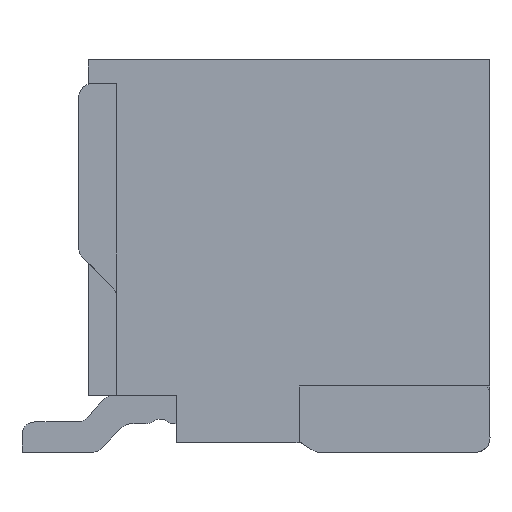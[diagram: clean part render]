
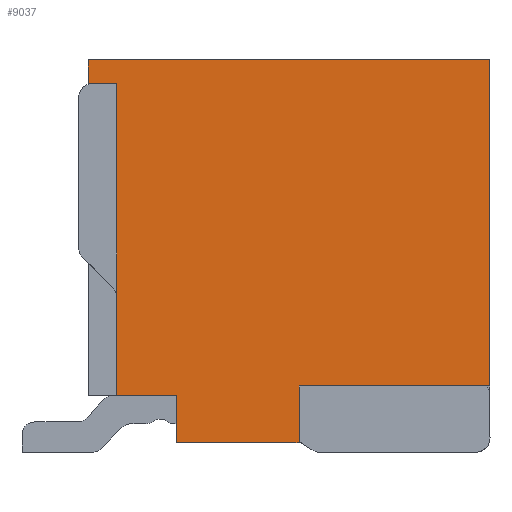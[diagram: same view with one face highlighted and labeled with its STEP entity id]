
A CAD part, left-side view. The second image highlights one B-rep face of the part: STEP entity #9037.
In plain terms, the highlighted planar face has unit normal (-1, 0, 0).
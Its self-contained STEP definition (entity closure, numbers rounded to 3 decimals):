
#2 = VERTEX_POINT ( 'NONE', #19882 ) ;
#270 = PLANE ( 'NONE',  #29100 ) ;
#937 = VERTEX_POINT ( 'NONE', #39215 ) ;
#1014 = CARTESIAN_POINT ( 'NONE',  ( -6.625, -0.93, 0. ) ) ;
#1038 = VECTOR ( 'NONE', #20604, 1000. ) ;
#3580 = VECTOR ( 'NONE', #34931, 1000. ) ;
#5173 = VERTEX_POINT ( 'NONE', #25448 ) ;
#5262 = VECTOR ( 'NONE', #39754, 1000. ) ;
#6288 = LINE ( 'NONE', #32538, #1038 ) ;
#6550 = VECTOR ( 'NONE', #22724, 1000. ) ;
#6664 = DIRECTION ( 'NONE',  ( -1., 0., 0. ) ) ;
#7848 = CARTESIAN_POINT ( 'NONE',  ( -6.625, -4.25, 0.6 ) ) ;
#8169 = DIRECTION ( 'NONE',  ( 0., -1., 0. ) ) ;
#8190 = CARTESIAN_POINT ( 'NONE',  ( -6.625, -2.23, 0. ) ) ;
#8833 = ORIENTED_EDGE ( 'NONE', *, *, #9646, .F. ) ;
#9037 = ADVANCED_FACE ( 'NONE', ( #39125 ), #270, .T. ) ;
#9646 = EDGE_CURVE ( 'NONE', #2, #937, #25922, .T. ) ;
#10036 = CARTESIAN_POINT ( 'NONE',  ( -6.625, -0.93, 0. ) ) ;
#11567 = EDGE_CURVE ( 'NONE', #43341, #43935, #6288, .T. ) ;
#11660 = LINE ( 'NONE', #44674, #42282 ) ;
#11780 = LINE ( 'NONE', #43391, #44091 ) ;
#11907 = DIRECTION ( 'NONE',  ( 0., 0., -1. ) ) ;
#12408 = CARTESIAN_POINT ( 'NONE',  ( -6.625, -2.23, 0. ) ) ;
#12755 = EDGE_CURVE ( 'NONE', #43341, #32099, #38716, .T. ) ;
#13608 = VECTOR ( 'NONE', #8169, 1000. ) ;
#13842 = VERTEX_POINT ( 'NONE', #26308 ) ;
#14217 = ORIENTED_EDGE ( 'NONE', *, *, #19040, .T. ) ;
#15057 = ORIENTED_EDGE ( 'NONE', *, *, #20996, .T. ) ;
#15106 = DIRECTION ( 'NONE',  ( 0., -1., 0. ) ) ;
#16071 = LINE ( 'NONE', #44816, #44003 ) ;
#17941 = CARTESIAN_POINT ( 'NONE',  ( -6.625, 0., 0. ) ) ;
#19040 = EDGE_CURVE ( 'NONE', #5173, #937, #28193, .T. ) ;
#19882 = CARTESIAN_POINT ( 'NONE',  ( -6.625, -0.93, 0. ) ) ;
#20155 = LINE ( 'NONE', #10036, #34868 ) ;
#20604 = DIRECTION ( 'NONE',  ( 0., 0., 1. ) ) ;
#20996 = EDGE_CURVE ( 'NONE', #13842, #5173, #11660, .T. ) ;
#21074 = DIRECTION ( 'NONE',  ( 0., -1., 0. ) ) ;
#21430 = DIRECTION ( 'NONE',  ( 0., 0., 1. ) ) ;
#21687 = EDGE_LOOP ( 'NONE', ( #26960, #41788, #29968, #30434, #42546, #15057, #14217, #8833, #36932, #28199 ) ) ;
#21994 = LINE ( 'NONE', #40415, #13608 ) ;
#22724 = DIRECTION ( 'NONE',  ( 0., 0., 1. ) ) ;
#25441 = VERTEX_POINT ( 'NONE', #32149 ) ;
#25448 = CARTESIAN_POINT ( 'NONE',  ( -6.625, -0.3, 0.5 ) ) ;
#25922 = LINE ( 'NONE', #1014, #29873 ) ;
#26308 = CARTESIAN_POINT ( 'NONE',  ( -6.625, -0.3, 3.8 ) ) ;
#26960 = ORIENTED_EDGE ( 'NONE', *, *, #12755, .F. ) ;
#28193 = LINE ( 'NONE', #42622, #5262 ) ;
#28199 = ORIENTED_EDGE ( 'NONE', *, *, #37586, .T. ) ;
#29100 = AXIS2_PLACEMENT_3D ( 'NONE', #17941, #6664, #21430 ) ;
#29762 = EDGE_CURVE ( 'NONE', #25441, #43935, #21994, .T. ) ;
#29873 = VECTOR ( 'NONE', #44123, 1000. ) ;
#29968 = ORIENTED_EDGE ( 'NONE', *, *, #29762, .F. ) ;
#30434 = ORIENTED_EDGE ( 'NONE', *, *, #36320, .F. ) ;
#32099 = VERTEX_POINT ( 'NONE', #45339 ) ;
#32149 = CARTESIAN_POINT ( 'NONE',  ( -6.625, 0., 4.05 ) ) ;
#32538 = CARTESIAN_POINT ( 'NONE',  ( -6.625, -4.25, 0.6 ) ) ;
#33940 = CARTESIAN_POINT ( 'NONE',  ( -6.625, 0., 3.8 ) ) ;
#34868 = VECTOR ( 'NONE', #21074, 1000. ) ;
#34931 = DIRECTION ( 'NONE',  ( 0., 1., 0. ) ) ;
#36320 = EDGE_CURVE ( 'NONE', #39039, #25441, #16071, .T. ) ;
#36932 = ORIENTED_EDGE ( 'NONE', *, *, #38456, .T. ) ;
#37586 = EDGE_CURVE ( 'NONE', #40272, #32099, #40437, .T. ) ;
#38456 = EDGE_CURVE ( 'NONE', #2, #40272, #20155, .T. ) ;
#38716 = LINE ( 'NONE', #39179, #3580 ) ;
#39039 = VERTEX_POINT ( 'NONE', #33940 ) ;
#39125 = FACE_OUTER_BOUND ( 'NONE', #21687, .T. ) ;
#39179 = CARTESIAN_POINT ( 'NONE',  ( -6.625, -4.25, 0.6 ) ) ;
#39215 = CARTESIAN_POINT ( 'NONE',  ( -6.625, -0.93, 0.5 ) ) ;
#39754 = DIRECTION ( 'NONE',  ( 0., -1., 0. ) ) ;
#40272 = VERTEX_POINT ( 'NONE', #12408 ) ;
#40415 = CARTESIAN_POINT ( 'NONE',  ( -6.625, 0., 4.05 ) ) ;
#40437 = LINE ( 'NONE', #8190, #6550 ) ;
#40489 = EDGE_CURVE ( 'NONE', #39039, #13842, #11780, .T. ) ;
#41788 = ORIENTED_EDGE ( 'NONE', *, *, #11567, .T. ) ;
#42282 = VECTOR ( 'NONE', #11907, 1000. ) ;
#42546 = ORIENTED_EDGE ( 'NONE', *, *, #40489, .T. ) ;
#42622 = CARTESIAN_POINT ( 'NONE',  ( -6.625, -0.3, 0.5 ) ) ;
#43341 = VERTEX_POINT ( 'NONE', #7848 ) ;
#43391 = CARTESIAN_POINT ( 'NONE',  ( -6.625, 0., 3.8 ) ) ;
#43935 = VERTEX_POINT ( 'NONE', #45126 ) ;
#44003 = VECTOR ( 'NONE', #45284, 1000. ) ;
#44091 = VECTOR ( 'NONE', #15106, 1000. ) ;
#44123 = DIRECTION ( 'NONE',  ( 0., 0., 1. ) ) ;
#44674 = CARTESIAN_POINT ( 'NONE',  ( -6.625, -0.3, 3.8 ) ) ;
#44816 = CARTESIAN_POINT ( 'NONE',  ( -6.625, 0., 3.8 ) ) ;
#45126 = CARTESIAN_POINT ( 'NONE',  ( -6.625, -4.25, 4.05 ) ) ;
#45284 = DIRECTION ( 'NONE',  ( 0., 0., 1. ) ) ;
#45339 = CARTESIAN_POINT ( 'NONE',  ( -6.625, -2.23, 0.6 ) ) ;
